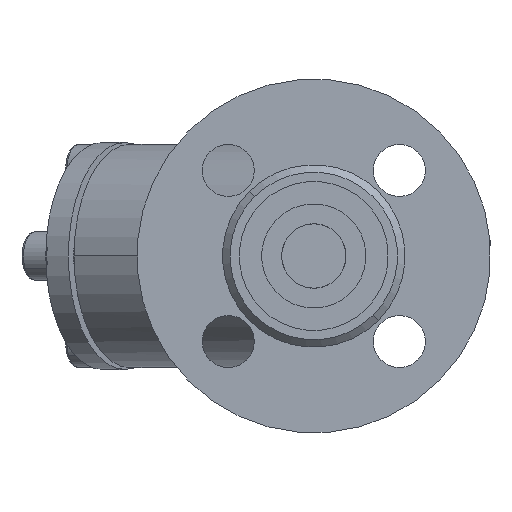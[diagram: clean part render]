
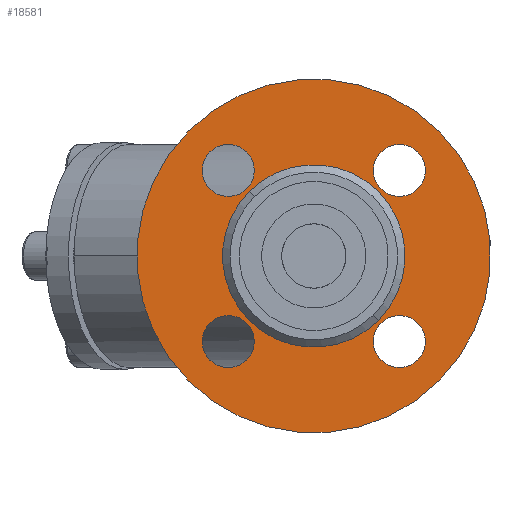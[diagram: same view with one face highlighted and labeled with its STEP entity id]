
A CAD part, left-side view. The second image highlights one B-rep face of the part: STEP entity #18581.
In plain terms, the highlighted planar face has unit normal (-1, 0, 0) as drawn and (0, -1, 0) by its records, which use the part's own axes.
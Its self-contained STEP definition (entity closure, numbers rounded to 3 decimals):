
#16636 = CIRCLE ( 'NONE', #16637, 47.5 ) ;
#16637 = AXIS2_PLACEMENT_3D ( 'NONE', #16638, #16639, #16640 ) ;
#16638 = CARTESIAN_POINT ( 'NONE',  ( 0., 2., 0. ) ) ;
#16639 = DIRECTION ( 'NONE',  ( 0., 1., 0. ) ) ;
#16640 = DIRECTION ( 'NONE',  ( -1., 0., 0. ) ) ;
#16726 = CARTESIAN_POINT ( 'NONE',  ( 47.5, 2., 0. ) ) ;
#16801 = ORIENTED_EDGE ( 'NONE', *, *, #13760, .T. ) ;
#16901 = ORIENTED_EDGE ( 'NONE', *, *, #18665, .T. ) ;
#17495 = EDGE_CURVE ( 'NONE', #3598, #3807, #5701, .T. ) ;
#1296 = EDGE_LOOP ( 'NONE', ( #12283, #8959 ) ) ;
#17840 = ORIENTED_EDGE ( 'NONE', *, *, #17495, .T. ) ;
#18221 = EDGE_LOOP ( 'NONE', ( #17840, #3148 ) ) ;
#18306 = EDGE_CURVE ( 'NONE', #3514, #3341, #13872, .T. ) ;
#18581 = ADVANCED_FACE ( 'NONE', ( #14118, #14119, #14120, #14124, #14125, #14126 ), #14127, .F. ) ;
#18665 = EDGE_CURVE ( 'NONE', #14086, #12493, #14453, .T. ) ;
#3131 = ORIENTED_EDGE ( 'NONE', *, *, #11677, .T. ) ;
#3148 = ORIENTED_EDGE ( 'NONE', *, *, #4014, .T. ) ;
#3341 = VERTEX_POINT ( 'NONE', #7213 ) ;
#3514 = VERTEX_POINT ( 'NONE', #7579 ) ;
#3598 = VERTEX_POINT ( 'NONE', #7861 ) ;
#3672 = ORIENTED_EDGE ( 'NONE', *, *, #7347, .T. ) ;
#3807 = VERTEX_POINT ( 'NONE', #13953 ) ;
#4014 = EDGE_CURVE ( 'NONE', #3807, #3598, #14175, .T. ) ;
#4562 = CARTESIAN_POINT ( 'NONE',  ( -39.5, 2., 0. ) ) ;
#4648 = CARTESIAN_POINT ( 'NONE',  ( -7., 2., 32.5 ) ) ;
#4764 = CARTESIAN_POINT ( 'NONE',  ( -25.5, 2., 0. ) ) ;
#4769 = CARTESIAN_POINT ( 'NONE',  ( 7., 2., 32.5 ) ) ;
#4914 = CIRCLE ( 'NONE', #4915, 7. ) ;
#4915 = AXIS2_PLACEMENT_3D ( 'NONE', #4916, #4917, #4918 ) ;
#4916 = CARTESIAN_POINT ( 'NONE',  ( 32.5, 2., 0. ) ) ;
#4917 = DIRECTION ( 'NONE',  ( 0., 1., 0. ) ) ;
#4918 = DIRECTION ( 'NONE',  ( -1., 0., 0. ) ) ;
#4952 = CIRCLE ( 'NONE', #4953, 7. ) ;
#4953 = AXIS2_PLACEMENT_3D ( 'NONE', #4954, #4955, #4956 ) ;
#4954 = CARTESIAN_POINT ( 'NONE',  ( -32.5, 2., 0. ) ) ;
#4955 = DIRECTION ( 'NONE',  ( 0., 1., 0. ) ) ;
#4956 = DIRECTION ( 'NONE',  ( -1., 0., 0. ) ) ;
#5621 = CIRCLE ( 'NONE', #5622, 7. ) ;
#5622 = AXIS2_PLACEMENT_3D ( 'NONE', #5623, #5624, #5625 ) ;
#5623 = CARTESIAN_POINT ( 'NONE',  ( -32.5, 2., 0. ) ) ;
#5624 = DIRECTION ( 'NONE',  ( 0., 1., 0. ) ) ;
#5625 = DIRECTION ( 'NONE',  ( -1., 0., 0. ) ) ;
#5701 = CIRCLE ( 'NONE', #5704, 7. ) ;
#5704 = AXIS2_PLACEMENT_3D ( 'NONE', #5705, #5706, #5707 ) ;
#5705 = CARTESIAN_POINT ( 'NONE',  ( 0., 2., -32.5 ) ) ;
#5706 = DIRECTION ( 'NONE',  ( 0., 1., 0. ) ) ;
#5707 = DIRECTION ( 'NONE',  ( -1., 0., 0. ) ) ;
#5727 = CIRCLE ( 'NONE', #5728, 7. ) ;
#5728 = AXIS2_PLACEMENT_3D ( 'NONE', #5729, #5730, #5731 ) ;
#5729 = CARTESIAN_POINT ( 'NONE',  ( 0., 2., 32.5 ) ) ;
#5730 = DIRECTION ( 'NONE',  ( 0., 1., 0. ) ) ;
#5731 = DIRECTION ( 'NONE',  ( -1., 0., 0. ) ) ;
#5861 = ORIENTED_EDGE ( 'NONE', *, *, #15937, .T. ) ;
#6231 = VERTEX_POINT ( 'NONE', #4769 ) ;
#7213 = CARTESIAN_POINT ( 'NONE',  ( 25.5, 2., 0. ) ) ;
#7347 = EDGE_CURVE ( 'NONE', #6231, #15277, #5727, .T. ) ;
#7579 = CARTESIAN_POINT ( 'NONE',  ( 39.5, 2., 0. ) ) ;
#7861 = CARTESIAN_POINT ( 'NONE',  ( -7., 2., -32.5 ) ) ;
#7862 = CARTESIAN_POINT ( 'NONE',  ( -24.5, 2., 0. ) ) ;
#8734 = EDGE_LOOP ( 'NONE', ( #16236, #14579 ) ) ;
#8959 = ORIENTED_EDGE ( 'NONE', *, *, #18306, .T. ) ;
#10471 = VERTEX_POINT ( 'NONE', #4562 ) ;
#10871 = EDGE_CURVE ( 'NONE', #3341, #3514, #4914, .T. ) ;
#11247 = EDGE_LOOP ( 'NONE', ( #3131, #5861 ) ) ;
#11557 = EDGE_LOOP ( 'NONE', ( #16801, #3672 ) ) ;
#11677 = EDGE_CURVE ( 'NONE', #10471, #15539, #5621, .T. ) ;
#12283 = ORIENTED_EDGE ( 'NONE', *, *, #10871, .T. ) ;
#12493 = VERTEX_POINT ( 'NONE', #7862 ) ;
#12700 = EDGE_CURVE ( 'NONE', #12493, #14086, #13954, .T. ) ;
#13469 = VERTEX_POINT ( 'NONE', #16726 ) ;
#13677 = VERTEX_POINT ( 'NONE', #15018 ) ;
#13760 = EDGE_CURVE ( 'NONE', #15277, #6231, #15180, .T. ) ;
#13872 = CIRCLE ( 'NONE', #13873, 7. ) ;
#13873 = AXIS2_PLACEMENT_3D ( 'NONE', #13874, #13875, #13876 ) ;
#13874 = CARTESIAN_POINT ( 'NONE',  ( 32.5, 2., 0. ) ) ;
#13875 = DIRECTION ( 'NONE',  ( 0., 1., 0. ) ) ;
#13876 = DIRECTION ( 'NONE',  ( -1., 0., 0. ) ) ;
#13882 = EDGE_CURVE ( 'NONE', #13677, #13469, #16114, .T. ) ;
#13953 = CARTESIAN_POINT ( 'NONE',  ( 7., 2., -32.5 ) ) ;
#13954 = CIRCLE ( 'NONE', #13955, 24.5 ) ;
#13955 = AXIS2_PLACEMENT_3D ( 'NONE', #13956, #13957, #13958 ) ;
#13956 = CARTESIAN_POINT ( 'NONE',  ( 0., 2., 0. ) ) ;
#13957 = DIRECTION ( 'NONE',  ( 0., 1., 0. ) ) ;
#13958 = DIRECTION ( 'NONE',  ( -1., 0., 0. ) ) ;
#14051 = ORIENTED_EDGE ( 'NONE', *, *, #12700, .T. ) ;
#14086 = VERTEX_POINT ( 'NONE', #16370 ) ;
#14118 = FACE_BOUND ( 'NONE', #18221, .T. ) ;
#14119 = FACE_BOUND ( 'NONE', #11247, .T. ) ;
#14120 = FACE_BOUND ( 'NONE', #11557, .T. ) ;
#14124 = FACE_BOUND ( 'NONE', #1296, .T. ) ;
#14125 = FACE_OUTER_BOUND ( 'NONE', #8734, .T. ) ;
#14126 = FACE_BOUND ( 'NONE', #14389, .T. ) ;
#14127 = PLANE ( 'NONE',  #14128 ) ;
#14128 = AXIS2_PLACEMENT_3D ( 'NONE', #14129, #14130, #14131 ) ;
#14129 = CARTESIAN_POINT ( 'NONE',  ( 24.5, 2., 0. ) ) ;
#14130 = DIRECTION ( 'NONE',  ( 0., 1., 0. ) ) ;
#14131 = DIRECTION ( 'NONE',  ( -1., 0., 0. ) ) ;
#14175 = CIRCLE ( 'NONE', #14176, 7. ) ;
#14176 = AXIS2_PLACEMENT_3D ( 'NONE', #14178, #14179, #14180 ) ;
#14177 = EDGE_CURVE ( 'NONE', #13469, #13677, #16636, .T. ) ;
#14178 = CARTESIAN_POINT ( 'NONE',  ( 0., 2., -32.5 ) ) ;
#14179 = DIRECTION ( 'NONE',  ( 0., 1., 0. ) ) ;
#14180 = DIRECTION ( 'NONE',  ( -1., 0., 0. ) ) ;
#14389 = EDGE_LOOP ( 'NONE', ( #14051, #16901 ) ) ;
#14453 = CIRCLE ( 'NONE', #14454, 24.5 ) ;
#14454 = AXIS2_PLACEMENT_3D ( 'NONE', #14455, #14456, #14458 ) ;
#14455 = CARTESIAN_POINT ( 'NONE',  ( 0., 2., 0. ) ) ;
#14456 = DIRECTION ( 'NONE',  ( 0., 1., 0. ) ) ;
#14458 = DIRECTION ( 'NONE',  ( -1., 0., 0. ) ) ;
#14579 = ORIENTED_EDGE ( 'NONE', *, *, #14177, .F. ) ;
#15018 = CARTESIAN_POINT ( 'NONE',  ( -47.5, 2., 0. ) ) ;
#15180 = CIRCLE ( 'NONE', #15181, 7. ) ;
#15181 = AXIS2_PLACEMENT_3D ( 'NONE', #15182, #15183, #15184 ) ;
#15182 = CARTESIAN_POINT ( 'NONE',  ( 0., 2., 32.5 ) ) ;
#15183 = DIRECTION ( 'NONE',  ( 0., 1., 0. ) ) ;
#15184 = DIRECTION ( 'NONE',  ( -1., 0., 0. ) ) ;
#15277 = VERTEX_POINT ( 'NONE', #4648 ) ;
#15539 = VERTEX_POINT ( 'NONE', #4764 ) ;
#15937 = EDGE_CURVE ( 'NONE', #15539, #10471, #4952, .T. ) ;
#16114 = CIRCLE ( 'NONE', #16115, 47.5 ) ;
#16115 = AXIS2_PLACEMENT_3D ( 'NONE', #16116, #16117, #16118 ) ;
#16116 = CARTESIAN_POINT ( 'NONE',  ( 0., 2., 0. ) ) ;
#16117 = DIRECTION ( 'NONE',  ( 0., 1., 0. ) ) ;
#16118 = DIRECTION ( 'NONE',  ( -1., 0., 0. ) ) ;
#16236 = ORIENTED_EDGE ( 'NONE', *, *, #13882, .F. ) ;
#16370 = CARTESIAN_POINT ( 'NONE',  ( 24.5, 2., 0. ) ) ;
